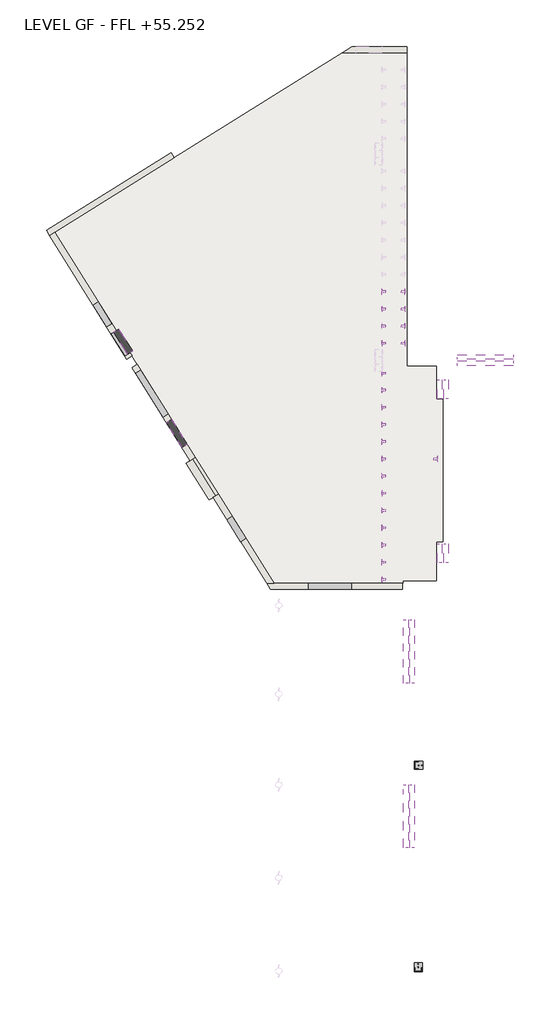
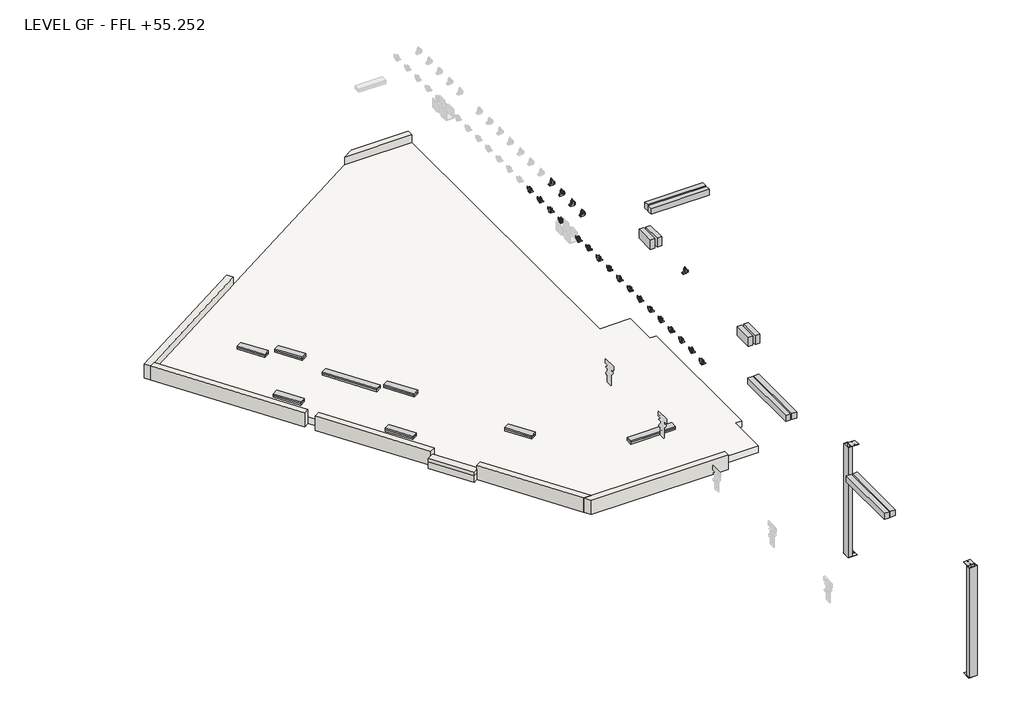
# One storey, part 1 of 2: 26 beams, 22 fasteners, 8 walls, 2 columns, 1 slab.
"""IFC4 building model written with IfcOpenShell, lengths in millimetres."""

from ifc_helpers import new_model, si_unit, frame, origin, place, context, project, spatial, polyline, outline, extrude, faceted_brep, transform, mapped, element, save
from components import beam_38x140_a258f91f, beam_38x140_6c0e690e, beam_38x140_33d01199, concrete_rectangular_beam_110_x_100mm_fe23fbfb, concrete_rectangular_beam_110_x_100mm_283fb27f, column_e0824547, column_0594fa48, sae250_50_2_sae250_50_2_05dc8403, sae250_50_2_sae250_50_2_80a18d80

model = new_model("IFC4")

# Units and contexts
model_context = context("Model", 3, world=origin())
ifc_project = project(units=[si_unit("LENGTHUNIT", "METRE", prefix="MILLI")], contexts=[model_context])

# Site, building, storey
site = spatial("IfcSite", under=ifc_project)
building = spatial("IfcBuilding", under=site)
storey = spatial("IfcBuildingStorey", under=building, Name="LEVEL GF - FFL +55.252", Elevation=242.0)

# Beams
placement = place(None, origin())
element("IfcBeam", 1, ObjectType="Graded Timber : 38x140", at=placement, inside=storey, context=model_context, shape_type="SweptSolid", body=[
    extrude(outline(polyline([(-35646.3027563, 11906.3314175), (-35765.0294897, 11832.1427204), (-36082.4511295, 12340.1235296), (-35963.7243962, 12414.3122267), (-35646.3027563, 11906.3314175)])), frame((0.0, 0.0, 1266.0), z_axis=(0.0, 0.0, 1.0), x_axis=(1.0, 0.0, 0.0)), (0.0, 0.0, 1.0), 38.0),
])
element("IfcBeam", 2, ObjectType="Graded Timber : 38x140", at=placement, inside=storey, context=model_context, shape_type="SweptSolid", body=[
    extrude(outline(polyline([(-35646.2448906, 11906.2388131), (-35764.971624, 11832.050116), (-36082.3932639, 12340.0309252), (-35963.6665305, 12414.2196223), (-35646.2448906, 11906.2388131)])), frame((0.0, 0.0, 1303.999978), z_axis=(0.0, 0.0, 1.0), x_axis=(1.0, 0.0, 0.0)), (0.0, 0.0, 1.0), 38.0),
])
element("IfcBeam", 3, ObjectType="Graded Timber : 38x140", at=placement, inside=storey, context=model_context, shape_type="SweptSolid", body=[
    extrude(outline(polyline([(-35341.7388988, 11164.1723624), (-35659.8100202, 11673.1925606), (-35541.0832867, 11747.3812576), (-35223.0121665, 11238.3610613), (-35341.7388988, 11164.1723624)])), frame((0.0, 0.0, 429.0), z_axis=(0.0, 0.0, 1.0), x_axis=(1.0, 0.0, 0.0)), (0.0, 0.0, 1.0), 38.0),
])
element("IfcBeam", 4, ObjectType="Graded Timber : 38x140", at=placement, inside=storey, context=model_context, shape_type="SweptSolid", body=[
    extrude(outline(polyline([(-35282.7463385, 11201.0350067), (-35604.4851007, 11708.060123), (-35485.7555089, 11782.2506087), (-35164.0167467, 11275.2254924), (-35282.7463385, 11201.0350067)])), frame((0.0, 0.0, 1412.0), z_axis=(0.0, 0.0, 1.0), x_axis=(1.0, 0.0, 0.0)), (0.0, 0.0, 1.0), 38.0),
])
element("IfcBeam", 5, ObjectType="Graded Timber : 38x140", at=placement, inside=storey, context=model_context, shape_type="SweptSolid", body=[
    extrude(outline(polyline([(-35282.7476687, 11201.0341755), (-35604.4864309, 11708.0592918), (-35485.7568392, 11782.2497774), (-35164.018077, 11275.2246611), (-35282.7476687, 11201.0341755)])), frame((0.0, 0.0, 1450.0), z_axis=(0.0, 0.0, 1.0), x_axis=(1.0, 0.0, 0.0)), (0.0, 0.0, 1.0), 38.0),
])
element("IfcBeam", 6, ObjectType="Graded Timber : 38x140", at=placement, inside=storey, context=model_context, shape_type="SweptSolid", body=[
    extrude(outline(polyline([(-34457.7708225, 9740.1133324), (-35093.6839033, 10757.7648218), (-34974.957171, 10831.9535207), (-34339.0440902, 9814.3020313), (-34457.7708225, 9740.1133324)])), frame((0.0, 0.0, 1266.0), z_axis=(0.0, 0.0, 1.0), x_axis=(1.0, 0.0, 0.0)), (0.0, 0.0, 1.0), 38.0),
])
element("IfcBeam", 7, ObjectType="Graded Timber : 38x140", at=placement, inside=storey, context=model_context, shape_type="SweptSolid", body=[
    extrude(outline(polyline([(-34457.7708225, 9740.1133324), (-35093.6839033, 10757.7648218), (-34974.957171, 10831.9535207), (-34339.0440902, 9814.3020313), (-34457.7708225, 9740.1133324)])), frame((0.0, 0.0, 1304.0), z_axis=(0.0, 0.0, 1.0), x_axis=(1.0, 0.0, 0.0)), (0.0, 0.0, 1.0), 38.0),
])
element("IfcBeam", 8, ObjectType="Graded Timber : 38x140", at=placement, inside=storey, context=model_context, shape_type="SweptSolid", body=[
    extrude(outline(polyline([(-30079.4371107, 5876.5605791), (-30079.4371107, 5736.5605791), (-31078.9371107, 5736.5605791), (-31078.9371107, 5876.5605791), (-30079.4371107, 5876.5605791)])), frame((0.0, 0.0, 1266.0), z_axis=(0.0, 0.0, 1.0), x_axis=(1.0, 0.0, 0.0)), (0.0, 0.0, 1.0), 38.0),
])
element("IfcBeam", 9, ObjectType="Graded Timber : 38x140", at=placement, inside=storey, context=model_context, shape_type="SweptSolid", body=[
    extrude(outline(polyline([(-30079.4371107, 5876.5605791), (-30079.4371107, 5736.5605791), (-31078.9371107, 5736.5605791), (-31078.9371107, 5876.5605791), (-30079.4371107, 5876.5605791)])), frame((0.0, 0.0, 1304.0), z_axis=(0.0, 0.0, 1.0), x_axis=(1.0, 0.0, 0.0)), (0.0, 0.0, 1.0), 38.0),
])
element("IfcBeam", 10, ObjectType="Graded Timber : 38x140", at=placement, inside=storey, context=model_context, shape_type="SweptSolid", body=[
    extrude(outline(polyline([(-35341.7388988, 11164.1723624), (-35659.8100202, 11673.1925606), (-35541.0832867, 11747.3812576), (-35223.0121665, 11238.3610613), (-35341.7388988, 11164.1723624)])), frame((0.0, 0.0, 391.0), z_axis=(0.0, 0.0, 1.0), x_axis=(1.0, 0.0, 0.0)), (0.0, 0.0, 1.0), 38.0),
])
beam_38x140_shape = beam_38x140_a258f91f(model_context)
element("IfcBeam", 11, ObjectType="Graded Timber : 38x140", at=placement, inside=storey, context=model_context, shape_type="MappedRepresentation", body=[
    mapped(beam_38x140_shape, transform((-32785.13309, 7195.4135442, 1323.0), x_axis=(0.5299192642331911, -0.848048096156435, 0.0), y_axis=(0.0, 0.0, 1.0000000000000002), z_axis=(-0.848048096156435, -0.5299192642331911, 0.0))),
])
element("IfcBeam", 12, ObjectType="Graded Timber : 38x140", at=placement, inside=storey, context=model_context, shape_type="MappedRepresentation", body=[
    mapped(beam_38x140_shape, transform((-32785.13309, 7195.4135442, 1285.0), x_axis=(0.5299192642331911, -0.848048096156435, 0.0), y_axis=(0.0, 0.0, 1.0000000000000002), z_axis=(-0.848048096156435, -0.5299192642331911, 0.0))),
])
beam_38x140_2_shape = beam_38x140_6c0e690e(model_context)
element("IfcBeam", 13, ObjectType="Graded Timber : 38x140", at=placement, inside=storey, context=model_context, shape_type="MappedRepresentation", body=[
    mapped(beam_38x140_2_shape, transform((-34168.2185226, 9408.8128396, 448.0), x_axis=(0.5299192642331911, -0.848048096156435, 0.0), y_axis=(0.0, 0.0, 1.0000000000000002), z_axis=(-0.848048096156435, -0.5299192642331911, 0.0))),
])
element("IfcBeam", 14, ObjectType="Graded Timber : 38x140", at=placement, inside=storey, context=model_context, shape_type="MappedRepresentation", body=[
    mapped(beam_38x140_2_shape, transform((-34168.2185226, 9408.8128396, 410.0), x_axis=(0.5299192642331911, -0.848048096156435, 0.0), y_axis=(0.0, 0.0, 1.0000000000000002), z_axis=(-0.848048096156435, -0.5299192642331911, 0.0))),
])
beam_38x140_3_shape = beam_38x140_33d01199(model_context)
element("IfcBeam", 15, ObjectType="Graded Timber : 38x140", at=placement, inside=storey, context=model_context, shape_type="MappedRepresentation", body=[
    mapped(beam_38x140_3_shape, transform((-34168.2185226, 9408.8128396, 1469.0), x_axis=(0.5299192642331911, -0.848048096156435, 0.0), y_axis=(0.0, 0.0, 1.0000000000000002), z_axis=(-0.848048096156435, -0.5299192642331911, 0.0))),
])
element("IfcBeam", 16, ObjectType="Graded Timber : 38x140", at=placement, inside=storey, context=model_context, shape_type="MappedRepresentation", body=[
    mapped(beam_38x140_3_shape, transform((-34168.2185226, 9408.8128396, 1431.0), x_axis=(0.5299192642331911, -0.848048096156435, 0.0), y_axis=(0.0, 0.0, 1.0000000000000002), z_axis=(-0.848048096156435, -0.5299192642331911, 0.0))),
])
element("IfcBeam", 17, ObjectType="Concrete-Rectangular Beam : 110 x 100mm", at=placement, inside=storey, context=model_context, shape_type="Brep", body=[
    faceted_brep([(-28862.9371107, 1198.5937113, 2492.0), (-28752.9371107, 1198.5937113, 2492.0), (-28752.9371107, 1198.5937113, 2352.0), (-28862.9371107, 1198.5937113, 2352.0), (-28862.9371107, -271.4062887, 2492.0), (-28862.9371107, -271.4062887, 2352.0), (-28752.9371107, -271.4062887, 2352.0), (-28752.9371107, -271.4062887, 2492.0), (-28862.9371107, 980.2449557, 2492.0)], [[[0, 1, 2, 3]], [[4, 5, 6, 7]], [[1, 0, 8, 4, 7]], [[2, 1, 7, 6]], [[3, 2, 6, 5]], [[0, 3, 5, 4, 8]]]),
])
element("IfcBeam", 18, ObjectType="Concrete-Rectangular Beam : 110 x 100mm", at=placement, inside=storey, context=model_context, shape_type="SweptSolid", body=[
    extrude(outline(polyline([(-28862.9371107, 5028.5937113), (-28752.9371107, 5028.5937113), (-28752.9371107, 3558.5937113), (-28862.9371107, 3558.5937113), (-28862.9371107, 5028.5937113)])), frame((0.0, 0.0, 2352.0), z_axis=(0.0, 0.0, 1.0), x_axis=(1.0, 0.0, 0.0)), (0.0, 0.0, 1.0), 140.0),
])
concrete_rectangular_beam_110_x_100mm_shape = concrete_rectangular_beam_110_x_100mm_fe23fbfb(model_context)
element("IfcBeam", 19, ObjectType="Concrete-Rectangular Beam : 110 x 100mm", at=placement, inside=storey, context=model_context, shape_type="MappedRepresentation", body=[
    mapped(concrete_rectangular_beam_110_x_100mm_shape, transform((-26962.6460034, 11131.9669708, 2422.0), x_axis=(1.0, 0.0, 0.0), y_axis=(0.0, 1.0, 0.0), z_axis=(0.0, 0.0, 1.0))),
])
element("IfcBeam", 20, ObjectType="Concrete-Rectangular Beam : 110 x 100mm", at=placement, inside=storey, context=model_context, shape_type="MappedRepresentation", body=[
    mapped(concrete_rectangular_beam_110_x_100mm_shape, transform((-26962.6460034, 10991.9669708, 2422.0), x_axis=(1.0, 0.0, 0.0), y_axis=(0.0, 1.0, 0.0), z_axis=(0.0, 0.0, 1.0))),
])
concrete_rectangular_beam_110_x_100mm_2_shape = concrete_rectangular_beam_110_x_100mm_283fb27f(model_context)
element("IfcBeam", 21, ObjectType="Concrete-Rectangular Beam : 110 x 100mm", at=placement, inside=storey, context=model_context, shape_type="MappedRepresentation", body=[
    mapped(concrete_rectangular_beam_110_x_100mm_2_shape, transform((-28667.9371107, 463.5937113, 2422.0), x_axis=(0.0, 1.0, 0.0), y_axis=(-1.0, 0.0, 0.0), z_axis=(0.0, 0.0, 1.0))),
])
element("IfcBeam", 22, ObjectType="Concrete-Rectangular Beam : 110 x 100mm", at=placement, inside=storey, context=model_context, shape_type="MappedRepresentation", body=[
    mapped(concrete_rectangular_beam_110_x_100mm_2_shape, transform((-28667.9371107, 4293.5937113, 2422.0), x_axis=(0.0, 1.0, 0.0), y_axis=(-1.0, 0.0, 0.0), z_axis=(0.0, 0.0, 1.0))),
])
element("IfcBeam", 23, ObjectType="Concrete-Rectangular Beam : 215 x 100mm", at=placement, inside=storey, context=model_context, shape_type="SweptSolid", body=[
    extrude(outline(polyline([(-28078.0871107, 10602.4351786), (-27978.0871107, 10602.4351786), (-27978.0871107, 10162.4351786), (-28078.0871107, 10162.4351786), (-28078.0871107, 10602.4351786)])), frame((0.0, 0.0, 2153.4), z_axis=(0.0, 0.0, 1.0), x_axis=(1.0, 0.0, 0.0)), (0.0, 0.0, 1.0), 215.0),
])
element("IfcBeam", 24, ObjectType="Concrete-Rectangular Beam : 215 x 100mm", at=placement, inside=storey, context=model_context, shape_type="SweptSolid", body=[
    extrude(outline(polyline([(-27928.2871107, 10602.4351786), (-27828.2871107, 10602.4351786), (-27828.2871107, 10162.4351786), (-27928.2871107, 10162.4351786), (-27928.2871107, 10602.4351786)])), frame((0.0, 0.0, 2153.4), z_axis=(0.0, 0.0, 1.0), x_axis=(1.0, 0.0, 0.0)), (0.0, 0.0, 1.0), 215.0),
])
element("IfcBeam", 25, ObjectType="Concrete-Rectangular Beam : 215 x 100mm", at=placement, inside=storey, context=model_context, shape_type="SweptSolid", body=[
    extrude(outline(polyline([(-28078.0871107, 6359.5605669), (-28078.0871107, 6799.5605669), (-27978.0871107, 6799.5605669), (-27978.0871107, 6359.5605669), (-28078.0871107, 6359.5605669)])), frame((0.0, 0.0, 2153.4), z_axis=(0.0, 0.0, 1.0), x_axis=(1.0, 0.0, 0.0)), (0.0, 0.0, 1.0), 215.0),
])
element("IfcBeam", 26, ObjectType="Concrete-Rectangular Beam : 215 x 100mm", at=placement, inside=storey, context=model_context, shape_type="SweptSolid", body=[
    extrude(outline(polyline([(-27928.2871107, 6359.5605669), (-27928.2871107, 6799.5605669), (-27828.2871107, 6799.5605669), (-27828.2871107, 6359.5605669), (-27928.2871107, 6359.5605669)])), frame((0.0, 0.0, 2153.4), z_axis=(0.0, 0.0, 1.0), x_axis=(1.0, 0.0, 0.0)), (0.0, 0.0, 1.0), 215.0),
])

# Columns
column_shape = column_e0824547(model_context)
element("IfcColumn", 27, ObjectType="UKPFC-Parallel Flange Channels-Column_Connections : UKPFC180x90x26", at=placement, inside=storey, context=model_context, shape_type="MappedRepresentation", body=[
    mapped(column_shape, transform((-28581.2371107, 1648.5937113, 0.0), x_axis=(1.0, 0.0, 0.0), y_axis=(0.0, 1.0, 0.0), z_axis=(0.0, 0.0, 1.0))),
])
column_2_shape = column_0594fa48(model_context)
element("IfcColumn", 28, ObjectType="UKPFC-Parallel Flange Channels-Column_Connections_Top rotated : UKPFC180x90x26", at=placement, inside=storey, context=model_context, shape_type="MappedRepresentation", body=[
    mapped(column_2_shape, transform((-28522.9371107, -3109.3330291, 0.0), x_axis=(5.175193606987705e-12, 1.0, 0.0), y_axis=(-1.0, 5.175193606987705e-12, 0.0), z_axis=(0.0, 0.0, 1.0))),
])

# Fasteners
sae250_50_2_sae250_50_2_shape = sae250_50_2_sae250_50_2_05dc8403(model_context)
element("IfcFastener", 29, ObjectType="sae250-50-2 : sae250-50-2", at=placement, inside=storey, context=model_context, shape_type="MappedRepresentation", body=[
    mapped(sae250_50_2_sae250_50_2_shape, transform((-28830.4398867, 12652.6961995, 2452.4), x_axis=(-5.178801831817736e-12, -1.0, 0.0), y_axis=(1.0, -5.178801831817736e-12, 0.0), z_axis=(0.0, 0.0, 1.0))),
])
element("IfcFastener", 30, ObjectType="sae250-50-2 : sae250-50-2", at=placement, inside=storey, context=model_context, shape_type="MappedRepresentation", body=[
    mapped(sae250_50_2_sae250_50_2_shape, transform((-29366.9371106, 12652.6961995, 2452.4), x_axis=(5.184908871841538e-12, 1.0, 0.0), y_axis=(-1.0, 5.184908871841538e-12, 0.0), z_axis=(0.0, 0.0, 1.0))),
])
element("IfcFastener", 31, ObjectType="sae250-50-2 : sae250-50-2", at=placement, inside=storey, context=model_context, shape_type="MappedRepresentation", body=[
    mapped(sae250_50_2_sae250_50_2_shape, transform((-28830.4398867, 12252.6961995, 2452.4), x_axis=(-5.178801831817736e-12, -1.0, 0.0), y_axis=(1.0, -5.178801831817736e-12, 0.0), z_axis=(0.0, 0.0, 1.0))),
])
element("IfcFastener", 32, ObjectType="sae250-50-2 : sae250-50-2", at=placement, inside=storey, context=model_context, shape_type="MappedRepresentation", body=[
    mapped(sae250_50_2_sae250_50_2_shape, transform((-29366.9371106, 12252.6961995, 2452.4), x_axis=(5.184908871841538e-12, 1.0, 0.0), y_axis=(-1.0, 5.184908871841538e-12, 0.0), z_axis=(0.0, 0.0, 1.0))),
])
element("IfcFastener", 33, ObjectType="sae250-50-2 : sae250-50-2", at=placement, inside=storey, context=model_context, shape_type="MappedRepresentation", body=[
    mapped(sae250_50_2_sae250_50_2_shape, transform((-28830.4398867, 11852.6961995, 2452.4), x_axis=(-5.178801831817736e-12, -1.0, 0.0), y_axis=(1.0, -5.178801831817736e-12, 0.0), z_axis=(0.0, 0.0, 1.0))),
])
element("IfcFastener", 34, ObjectType="sae250-50-2 : sae250-50-2", at=placement, inside=storey, context=model_context, shape_type="MappedRepresentation", body=[
    mapped(sae250_50_2_sae250_50_2_shape, transform((-29366.9371106, 11852.6961995, 2452.4), x_axis=(5.184908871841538e-12, 1.0, 0.0), y_axis=(-1.0, 5.184908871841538e-12, 0.0), z_axis=(0.0, 0.0, 1.0))),
])
element("IfcFastener", 35, ObjectType="sae250-50-2 : sae250-50-2", at=placement, inside=storey, context=model_context, shape_type="MappedRepresentation", body=[
    mapped(sae250_50_2_sae250_50_2_shape, transform((-28830.4398867, 11452.6961995, 2452.4), x_axis=(-5.178801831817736e-12, -1.0, 0.0), y_axis=(1.0, -5.178801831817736e-12, 0.0), z_axis=(0.0, 0.0, 1.0))),
])
element("IfcFastener", 36, ObjectType="sae250-50-2 : sae250-50-2", at=placement, inside=storey, context=model_context, shape_type="MappedRepresentation", body=[
    mapped(sae250_50_2_sae250_50_2_shape, transform((-29366.9371106, 11452.6961995, 2452.4), x_axis=(5.184908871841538e-12, 1.0, 0.0), y_axis=(-1.0, 5.184908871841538e-12, 0.0), z_axis=(0.0, 0.0, 1.0))),
])
element("IfcFastener", 37, ObjectType="sae250-50-2 : sae250-50-2", at=placement, inside=storey, context=model_context, shape_type="MappedRepresentation", body=[
    mapped(sae250_50_2_sae250_50_2_shape, transform((-29366.9371106, 10758.3279153, 2427.0), x_axis=(5.184908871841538e-12, 1.0, 0.0), y_axis=(-1.0, 5.184908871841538e-12, 0.0), z_axis=(0.0, 0.0, 1.0))),
])
element("IfcFastener", 38, ObjectType="sae250-50-2 : sae250-50-2", at=placement, inside=storey, context=model_context, shape_type="MappedRepresentation", body=[
    mapped(sae250_50_2_sae250_50_2_shape, transform((-29366.9371106, 10368.32817, 2452.4), x_axis=(5.184908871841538e-12, 1.0, 0.0), y_axis=(-1.0, 5.184908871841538e-12, 0.0), z_axis=(0.0, 0.0, 1.0))),
])
element("IfcFastener", 39, ObjectType="sae250-50-2 : sae250-50-2", at=placement, inside=storey, context=model_context, shape_type="MappedRepresentation", body=[
    mapped(sae250_50_2_sae250_50_2_shape, transform((-29366.9371106, 9968.3284312, 2452.4), x_axis=(5.184908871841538e-12, 1.0, 0.0), y_axis=(-1.0, 5.184908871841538e-12, 0.0), z_axis=(0.0, 0.0, 1.0))),
])
element("IfcFastener", 40, ObjectType="sae250-50-2 : sae250-50-2", at=placement, inside=storey, context=model_context, shape_type="MappedRepresentation", body=[
    mapped(sae250_50_2_sae250_50_2_shape, transform((-29366.9371106, 9568.3286924, 2452.4), x_axis=(5.184908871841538e-12, 1.0, 0.0), y_axis=(-1.0, 5.184908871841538e-12, 0.0), z_axis=(0.0, 0.0, 1.0))),
])
element("IfcFastener", 41, ObjectType="sae250-50-2 : sae250-50-2", at=placement, inside=storey, context=model_context, shape_type="MappedRepresentation", body=[
    mapped(sae250_50_2_sae250_50_2_shape, transform((-29366.9371106, 9168.3289537, 2452.4), x_axis=(5.184908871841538e-12, 1.0, 0.0), y_axis=(-1.0, 5.184908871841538e-12, 0.0), z_axis=(0.0, 0.0, 1.0))),
])
element("IfcFastener", 42, ObjectType="sae250-50-2 : sae250-50-2", at=placement, inside=storey, context=model_context, shape_type="MappedRepresentation", body=[
    mapped(sae250_50_2_sae250_50_2_shape, transform((-29366.9371106, 8768.3292149, 2452.4), x_axis=(5.184908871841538e-12, 1.0, 0.0), y_axis=(-1.0, 5.184908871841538e-12, 0.0), z_axis=(0.0, 0.0, 1.0))),
])
element("IfcFastener", 43, ObjectType="sae250-50-2 : sae250-50-2", at=placement, inside=storey, context=model_context, shape_type="MappedRepresentation", body=[
    mapped(sae250_50_2_sae250_50_2_shape, transform((-29366.9371106, 8368.3294762, 2452.4), x_axis=(5.184908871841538e-12, 1.0, 0.0), y_axis=(-1.0, 5.184908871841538e-12, 0.0), z_axis=(0.0, 0.0, 1.0))),
])
element("IfcFastener", 44, ObjectType="sae250-50-2 : sae250-50-2", at=placement, inside=storey, context=model_context, shape_type="MappedRepresentation", body=[
    mapped(sae250_50_2_sae250_50_2_shape, transform((-29366.9371106, 7968.3297374, 2452.4), x_axis=(5.184908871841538e-12, 1.0, 0.0), y_axis=(-1.0, 5.184908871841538e-12, 0.0), z_axis=(0.0, 0.0, 1.0))),
])
element("IfcFastener", 45, ObjectType="sae250-50-2 : sae250-50-2", at=placement, inside=storey, context=model_context, shape_type="MappedRepresentation", body=[
    mapped(sae250_50_2_sae250_50_2_shape, transform((-29366.9371106, 7568.3299986, 2452.4), x_axis=(5.184908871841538e-12, 1.0, 0.0), y_axis=(-1.0, 5.184908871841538e-12, 0.0), z_axis=(0.0, 0.0, 1.0))),
])
element("IfcFastener", 46, ObjectType="sae250-50-2 : sae250-50-2", at=placement, inside=storey, context=model_context, shape_type="MappedRepresentation", body=[
    mapped(sae250_50_2_sae250_50_2_shape, transform((-29366.9371106, 7168.3302599, 2452.4), x_axis=(5.184908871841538e-12, 1.0, 0.0), y_axis=(-1.0, 5.184908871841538e-12, 0.0), z_axis=(0.0, 0.0, 1.0))),
])
element("IfcFastener", 47, ObjectType="sae250-50-2 : sae250-50-2", at=placement, inside=storey, context=model_context, shape_type="MappedRepresentation", body=[
    mapped(sae250_50_2_sae250_50_2_shape, transform((-29366.9371106, 6768.3305211, 2452.4), x_axis=(5.184908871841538e-12, 1.0, 0.0), y_axis=(-1.0, 5.184908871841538e-12, 0.0), z_axis=(0.0, 0.0, 1.0))),
])
element("IfcFastener", 48, ObjectType="sae250-50-2 : sae250-50-2", at=placement, inside=storey, context=model_context, shape_type="MappedRepresentation", body=[
    mapped(sae250_50_2_sae250_50_2_shape, transform((-29366.9371106, 6368.3307824, 2452.4), x_axis=(5.184908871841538e-12, 1.0, 0.0), y_axis=(-1.0, 5.184908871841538e-12, 0.0), z_axis=(0.0, 0.0, 1.0))),
])
element("IfcFastener", 49, ObjectType="sae250-50-2 : sae250-50-2", at=placement, inside=storey, context=model_context, shape_type="MappedRepresentation", body=[
    mapped(sae250_50_2_sae250_50_2_shape, transform((-29366.9371106, 5968.3310436, 2427.0), x_axis=(5.184908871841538e-12, 1.0, 0.0), y_axis=(-1.0, 5.184908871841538e-12, 0.0), z_axis=(0.0, 0.0, 1.0))),
])
sae250_50_2_sae250_50_2_2_shape = sae250_50_2_sae250_50_2_80a18d80(model_context)
element("IfcFastener", 50, ObjectType="sae250-50-2 : sae250-50-2", at=placement, inside=storey, context=model_context, shape_type="MappedRepresentation", body=[
    mapped(sae250_50_2_sae250_50_2_2_shape, transform((-28079.0871107, 8768.3292149, 2452.4), x_axis=(-5.1849088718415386e-12, 1.0, 0.0), y_axis=(-1.0, -5.1849088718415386e-12, 0.0), z_axis=(0.0, 0.0, 1.0))),
])

# Slab
element("IfcSlab", 51, ObjectType="MBA - Proposed Ground Floor", at=placement, inside=storey, context=model_context, shape_type="SweptSolid", body=[
    extrude(outline(polyline([(-31878.4123493, 5876.6027835), (-36973.7993359, 14030.9253246), (-30290.1475845, 18207.3350736), (-28781.9398867, 18207.3350736), (-28781.9398867, 10916.9652362), (-28098.1898867, 10916.9652362), (-28098.1898867, 10156.9652364), (-27948.1898867, 10156.9652362), (-27948.1898867, 6840.7620383), (-28098.1898867, 6840.7620384), (-28098.1898867, 5934.5588406), (-28877.9398867, 5934.5588406), (-28877.9398867, 5876.5588406), (-31878.4123493, 5876.6027835)])), frame((0.0, 0.0, -93.0), z_axis=(0.0, 0.0, 1.0), x_axis=(1.0, 0.0, 0.0)), (0.0, 0.0, 1.0), 150.0),
])

# Walls
element("IfcWall", 52, ObjectType="Generic - 140mm", at=placement, inside=storey, context=model_context, shape_type="Brep", body=[
    faceted_brep([(-34270.6899946, 15885.0782984, -93.0), (-37166.7849802, 14075.4204355, -93.0), (-37166.7849802, 14075.4204355, 242.0), (-34270.6899946, 15885.0782984, 242.0), (-34196.5019797, 15766.3511388, -93.0), (-34196.5019797, 15766.3511388, 242.0), (-36973.8691236, 14030.881717, 242.0), (-37092.5962832, 13956.693702, 242.0), (-37092.5962832, 13956.693702, -93.0), (-36973.8691236, 14030.881717, -93.0)], [[[0, 1, 2, 3]], [[4, 5, 6, 7, 8, 9]], [[1, 0, 4, 9, 8]], [[3, 2, 7, 6, 5]], [[0, 3, 5, 4]], [[2, 1, 8, 7]]]),
])
element("IfcWall", 53, ObjectType="Generic - 140mm", at=placement, inside=storey, context=model_context, shape_type="SweptSolid", body=[
    extrude(outline(polyline([(-35299.346596, 11086.8943084), (-37092.5962832, 13956.693702), (-36973.8691236, 14030.881717), (-35180.6198625, 11161.0830053), (-35299.346596, 11086.8943084)])), frame((0.0, 0.0, -93.0), z_axis=(0.0, 0.0, 1.0), x_axis=(1.0, 0.0, 0.0)), (0.0, 0.0, 1.0), 335.0),
])
element("IfcWall", 54, ObjectType="Generic - 140mm", at=placement, inside=storey, context=model_context, shape_type="SweptSolid", body=[
    extrude(outline(polyline([(-30066.0978863, 18347.3350736), (-28781.9398867, 18347.3350736), (-28781.9398867, 18207.3350736), (-30290.1475845, 18207.3350736), (-30066.0978863, 18347.3350736)])), frame((0.0, 0.0, -93.0), z_axis=(0.0, 0.0, 1.0), x_axis=(1.0, 0.0, 0.0)), (0.0, 0.0, 1.0), 335.0),
])
element("IfcWall", 55, ObjectType="Generic - 140mm", at=placement, inside=storey, context=model_context, shape_type="Brep", body=[
    faceted_brep([(-31955.993104, 5736.5605791, -93.0), (-28887.9371265, 5736.5605791, -93.0), (-28887.9371265, 5736.5605791, 242.0), (-31955.993104, 5736.5605791, 242.0), (-32043.4748133, 5876.5605791, -93.0), (-32043.4748133, 5876.5605791, 242.0), (-31878.3898368, 5876.5605791, 242.0), (-28887.9371265, 5876.5605791, 242.0), (-28887.9371265, 5876.5605791, -93.0), (-31878.3898368, 5876.5605791, -93.0)], [[[0, 1, 2, 3]], [[4, 5, 6, 7, 8, 9]], [[1, 0, 4, 9, 8]], [[2, 1, 8, 7]], [[3, 2, 7, 6, 5]], [[0, 3, 5, 4]]]),
])
element("IfcWall", 56, ObjectType="Generic - 140mm", at=placement, inside=storey, context=model_context, shape_type="Brep", body=[
    faceted_brep([(-33290.4421242, 7872.1254232, 242.0), (-33290.4421242, 7872.1254232, -93.0), (-32043.4748133, 5876.5605791, -93.0), (-32043.4748133, 5876.5605791, 242.0), (-33171.7153907, 7946.3141202, -93.0), (-33171.7153907, 7946.3141202, 57.0), (-33171.7153907, 7946.3141202, 242.0), (-31878.3898368, 5876.5605791, 242.0), (-31878.3898368, 5876.5605791, -93.0)], [[[0, 1, 2, 3]], [[4, 5, 6, 7, 8]], [[2, 1, 4, 8]], [[0, 3, 7, 6]], [[3, 2, 8, 7]], [[0, 6, 5, 4, 1]]]),
])
element("IfcWall", 57, ObjectType="Generic - 140mm", at=placement, inside=storey, context=model_context, shape_type="SweptSolid", body=[
    extrude(outline(polyline([(-33826.7551767, 8730.4057399), (-35175.8290424, 10889.3281934), (-35057.1030353, 10963.5180528), (-33708.0291696, 8804.5955993), (-33826.7551767, 8730.4057399)])), frame((0.0, 0.0, -93.0), z_axis=(0.0, 0.0, 1.0), x_axis=(1.0, 0.0, 0.0)), (0.0, 0.0, 1.0), 335.0),
])
element("IfcWall", 58, ObjectType="Generic - 170mm", at=placement, inside=storey, context=model_context, shape_type="SweptSolid", body=[
    extrude(outline(polyline([(-33383.7246297, 7813.8360444), (-33920.0375617, 8672.1161478), (-33775.8693853, 8762.2024227), (-33239.5564534, 7903.9223194), (-33383.7246297, 7813.8360444)])), frame((0.0, 0.0, 57.0), z_axis=(0.0, 0.0, 1.0), x_axis=(1.0, 0.0, 0.0)), (0.0, 0.0, 1.0), 85.0),
])
element("IfcWall", 59, ObjectType="Generic - 250mm", at=placement, inside=storey, context=model_context, shape_type="Brep", body=[
    faceted_brep([(-33920.0380605, 8672.1169331, -93.0), (-33383.7246365, 7813.8360402, -93.0), (-33383.7246365, 7813.8360402, 57.0), (-33920.0380605, 8672.1169331, 57.0), (-33708.0260363, 8804.5967489, -93.0), (-33708.0260363, 8804.5967489, 57.0), (-33171.7126123, 7946.315856, 57.0), (-33171.7126123, 7946.315856, -93.0), (-33290.4421241, 7872.1254231, -93.0), (-33239.5564533, 7903.9223192, 57.0)], [[[0, 1, 2, 3]], [[4, 5, 6, 7]], [[1, 0, 4, 7, 8]], [[2, 1, 8, 7, 6, 9]], [[3, 2, 9, 6, 5]], [[0, 3, 5, 4]]]),
])

save(model, "model.ifc")
